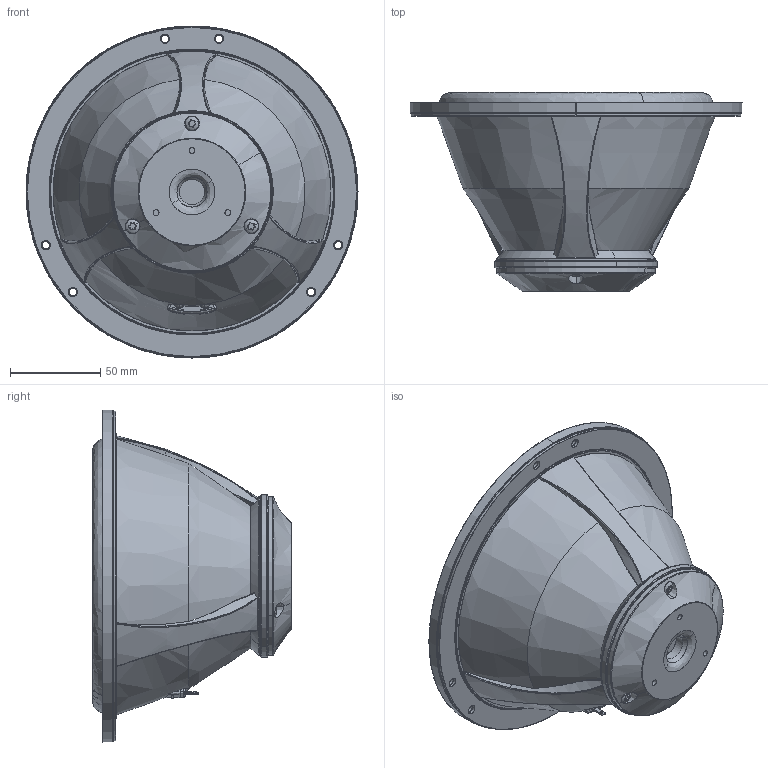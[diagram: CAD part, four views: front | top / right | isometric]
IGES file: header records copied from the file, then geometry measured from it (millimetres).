
Start section: SolidWorks IGES file using analytic representation for surfaces
Global section: file name: W:\TT\WEB 3D ENHEDER VER2\18WU_8747T00\18WU-8747T00.IGS; native system: SolidWorks 2019; preprocessor: SolidWorks 2019; author: mhn; date: 201109.122945; units: millimetre
Bounding box: 184 x 110.25 x 184 mm (x, y, z)
Surface area: 122764.2 mm2 (no closed solid volume)
Topology: 0 solids, 0 shells, 649 faces, 11249 edges, 11230 vertices
Faces by surface type: bspline 347, revolution 302
